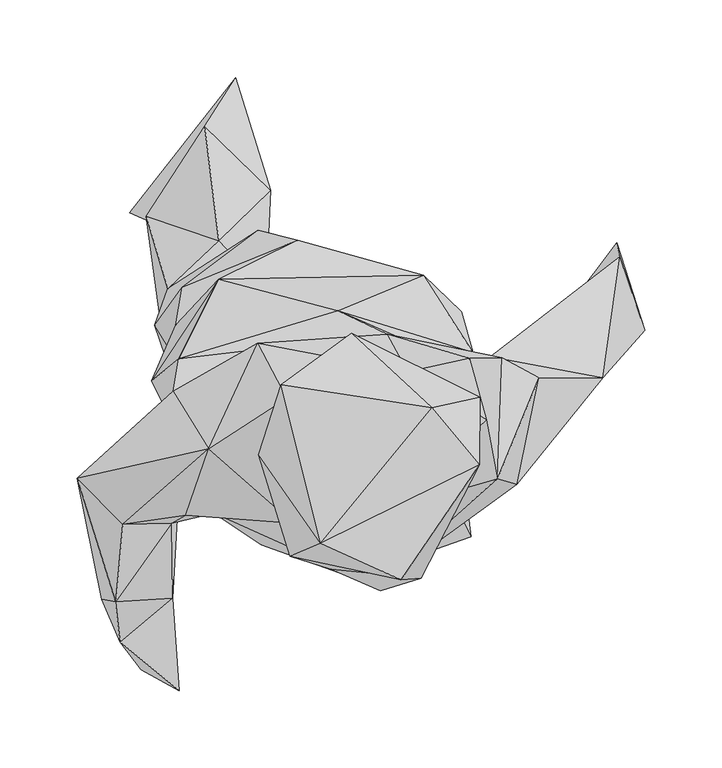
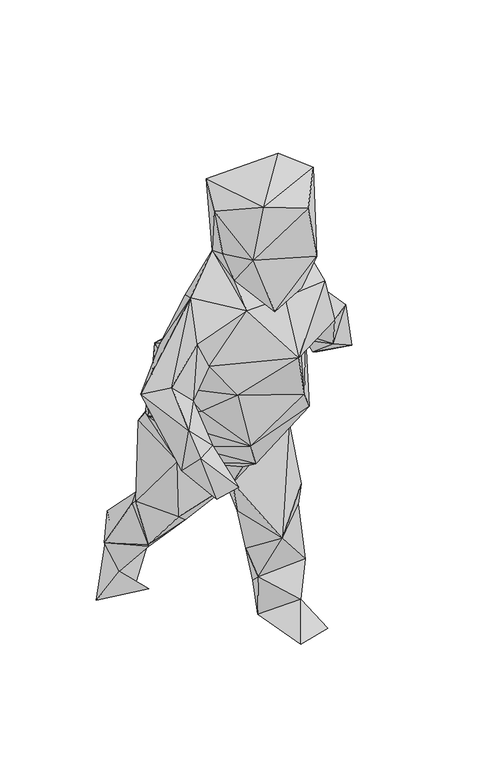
"""IFC4 building model written with IfcOpenShell, lengths in millimetres: geographic element geometry, Enscape AssetDefinition - Milan 001 Walking : Enscape AssetDefinition - Milan 001 Walking."""

from ifc_helpers import new_model, si_unit, origin, place, context, project, spatial, triangles, source, transform, mapped, element, save


def geographic_element_ef595390(model_context):
    return source(origin(), model_context, "Body", "Tessellation", [
        triangles([(-59.4208416, 26.888877, 363.3096554), (-88.989054, -45.4761668, 462.3999733), (-83.9371912, -88.3273757, 416.5611288), (-85.2461866, -24.6922019, 448.9078826), (-66.6462863, -112.2114102, 389.2129798), (-150.9280241, -101.9880971, 438.7650061), (-65.9803749, -82.9538846, 547.7252157), (-89.7299881, -130.8560934, 424.9156697), (-121.6893745, -131.5568682, 456.3472541), (-123.1483789, -207.822144, 392.1824933), (-126.1871196, -181.7295688, 421.2698167), (-109.6545441, -225.7908328, 335.8007604), (-135.0800089, -180.0180998, 361.4777178), (-84.9784976, -239.1310069, 353.3556118), (-89.2322986, -179.3298788, 383.5405063), (-80.9880253, -125.7966456, 506.5310005), (-62.3510225, -124.5568049, 465.1338181), (-11.0093855, -130.8595543, 537.7826177), (-32.0434429, -144.918816, 421.3570207), (-11.2531842, -142.2822491, 332.8091552), (-62.6861219, -77.501038, 310.788697), (115.5082747, -63.3603132, 406.0964333), (63.8845499, -148.2571024, 391.2358941), (80.8383524, -132.038325, 357.1092708), (109.2069878, -79.911683, 335.0529499), (17.7353569, 6.4896798, 443.2469636), (105.0608565, -20.2663138, 367.7343126), (49.8829563, -8.8112298, 455.293503), (91.1360342, -25.6137209, 411.9530525), (73.0415218, 29.4259655, 330.7632045), (97.4867457, 5.9517954, 310.6772575), (29.7148128, 17.3395428, 202.8034278), (77.1453638, 21.7903192, 236.0546504), (96.5315806, -76.8103189, 165.2691273), (95.4192756, -86.1713027, 203.2421001), (52.2327584, -112.5595812, 149.1980425), (88.989163, -66.3674561, 287.9472133), (5.1919484, -67.5933669, 224.9886834), (-69.1628478, -54.2174846, 276.6239945), (11.0907963, -82.3214105, 256.7560757), (15.4324224, -107.7400625, 275.2471527), (-83.1963026, 21.6848637, 299.4723092), (-100.7359842, -3.0582839, 194.2129819), (-65.1276698, -50.9590489, 186.8329818), (-102.7813989, -38.7067308, 349.5314266), (-87.1846039, -3.0705688, 328.3816275), (-8.350556, 51.9090999, 330.1495428), (-92.4090579, 20.5469971, 173.5325945), (-30.0420321, -6.5475944, 142.3660104), (-62.8913783, 29.0819458, 90.9607723), (-94.0805856, -22.7581448, 135.7179605), (-3.9807646, -7.7199213, 202.0542184), (-33.9232905, 58.4251266, 244.8827452), (-25.8217819, 84.5380176, 71.6341041), (-68.6574871, 125.66306, 89.917622), (-106.3051301, 67.5269511, 88.8863078), (-59.5685252, 51.7365132, 167.3095187), (-89.8348872, 57.7722731, 44.3517668), (-117.1359461, 69.9553866, 1.0578956), (-57.4726366, 74.451542, -0.2829694), (-53.937142, 45.4009988, 12.2643245), (-48.5066231, 157.2972301, 50.0767399), (25.4267728, -43.432051, 159.7457181), (32.3469604, -85.7913749, 79.7215601), (32.9925901, -52.1735414, 103.9853861), (90.4922781, -28.5883349, 19.5296469), (107.4782779, -75.3284916, 75.2912482), (63.7193619, -17.6706783, 22.5268386), (87.6550966, -29.7459428, 154.0653053), (85.3893192, -102.4730057, 36.6823335), (37.8183357, -74.5766071, 12.8028988), (103.8368396, -139.6306123, 7.5665054), (53.3210686, -157.2367142, 10.8191582), (102.8943553, -24.2784463, 555.6113259), (116.522021, -23.2772447, 439.0359198), (123.7331906, -23.9839489, 488.1821932), (50.0222056, -122.7168645, 532.1011694), (120.8605007, -102.2803667, 521.1769815), (147.7587862, -36.7582964, 465.8987423), (189.25351, -36.9798354, 419.7427297), (42.5362754, -171.6989492, 470.3495607), (133.5768575, -105.867357, 457.3635801), (-23.9658882, -92.7942178, 607.7730766), (-10.7295686, -99.1210846, 565.385802), (-33.4759568, -86.6985143, 673.520299), (71.4471651, -166.6790158, 615.3457249), (-13.3978979, -152.2168989, 630.359416), (6.5334607, -143.9002735, 700.9774166), (45.2441088, -174.6263505, 580.1269444), (13.1279619, -160.6065122, 545.6223644), (113.6936053, -64.182088, 551.3926881), (72.509414, -102.9353049, 553.2181944), (62.9888696, -33.1804965, 569.1706), (88.5937021, -85.1285611, 588.0956077), (-15.5387181, -50.2373088, 584.4058256), (101.8465723, -100.7112855, 611.1353714), (109.5695384, -49.5961097, 653.1803341), (109.1608061, -93.2175659, 696.3856911), (26.5002765, -8.2774852, 629.606991), (-34.1981828, -14.6883363, 500.2467184), (-18.9473094, -41.4045585, 691.9969328), (78.6461988, -56.4824581, 707.1171581), (58.420998, -167.6325005, 695.45646), (200.0923287, 41.2662675, 350.1455606), (147.8914907, -77.2160626, 398.1251902), (99.8924946, -74.000643, 429.4299654), (216.1093017, -6.1775997, 328.2681533), (198.0455423, 50.4186476, 290.0661246), (169.3341953, 12.2994071, 323.9635468)], [[14, 10, 12], [109, 22, 75], [109, 75, 104], [104, 108, 109], [107, 109, 108], [108, 104, 107], [109, 107, 105], [105, 106, 22], [109, 105, 22], [104, 80, 107], [104, 75, 80], [105, 107, 80], [103, 86, 98], [88, 103, 98], [88, 98, 102], [101, 88, 102], [88, 101, 85], [100, 7, 95], [101, 95, 85], [101, 102, 99], [99, 95, 101], [97, 102, 98], [102, 97, 99], [86, 97, 98], [86, 96, 97], [94, 97, 96], [99, 93, 95], [94, 93, 97], [100, 95, 93], [93, 99, 97], [86, 89, 92], [92, 94, 96], [92, 93, 94], [86, 92, 96], [93, 92, 91], [92, 77, 91], [89, 86, 90], [90, 92, 89], [90, 77, 92], [103, 88, 87], [87, 88, 85], [87, 86, 103], [86, 87, 90], [95, 83, 85], [85, 83, 87], [83, 84, 87], [84, 90, 87], [90, 84, 77], [95, 84, 83], [77, 84, 18], [18, 95, 7], [18, 84, 95], [77, 18, 81], [82, 105, 80], [82, 106, 105], [81, 106, 82], [75, 79, 80], [79, 82, 80], [79, 78, 82], [77, 78, 91], [78, 77, 81], [81, 82, 78], [93, 91, 74], [78, 74, 91], [78, 79, 76], [76, 79, 75], [74, 78, 76], [74, 28, 93], [28, 100, 93], [76, 28, 74], [28, 76, 75], [70, 73, 72], [70, 71, 73], [73, 71, 72], [72, 66, 70], [72, 71, 66], [34, 69, 32], [67, 70, 66], [34, 67, 69], [67, 68, 69], [66, 68, 67], [68, 66, 71], [68, 71, 64], [67, 64, 70], [71, 70, 64], [65, 69, 68], [68, 64, 65], [36, 64, 67], [36, 67, 34], [36, 65, 64], [69, 63, 32], [63, 65, 36], [69, 65, 63], [63, 38, 32], [38, 63, 36], [60, 59, 62], [61, 59, 60], [55, 62, 58], [59, 61, 58], [58, 61, 60], [58, 62, 59], [54, 62, 55], [60, 62, 54], [54, 58, 60], [57, 54, 55], [56, 57, 55], [55, 58, 56], [58, 50, 56], [50, 58, 54], [54, 49, 50], [57, 49, 54], [52, 38, 49], [32, 38, 52], [49, 57, 52], [52, 53, 32], [48, 57, 56], [52, 57, 48], [52, 48, 53], [51, 48, 56], [50, 51, 56], [49, 51, 50], [38, 44, 49], [44, 51, 49], [51, 44, 43], [48, 43, 53], [51, 43, 48], [42, 47, 53], [42, 53, 43], [46, 47, 42], [47, 46, 1], [45, 1, 46], [21, 45, 46], [43, 39, 42], [39, 21, 46], [44, 38, 39], [43, 44, 39], [46, 42, 39], [40, 39, 38], [39, 41, 21], [39, 40, 41], [40, 38, 37], [41, 40, 37], [36, 37, 38], [32, 35, 34], [35, 37, 36], [36, 34, 35], [33, 32, 53], [35, 33, 37], [35, 32, 33], [37, 33, 31], [47, 30, 53], [1, 30, 47], [30, 33, 53], [31, 33, 30], [26, 30, 1], [26, 27, 30], [30, 27, 31], [37, 31, 27], [75, 29, 28], [29, 26, 28], [26, 29, 27], [22, 29, 75], [25, 27, 29], [41, 37, 25], [37, 27, 25], [25, 29, 22], [25, 24, 41], [22, 24, 25], [22, 23, 24], [81, 23, 106], [23, 22, 106], [20, 41, 24], [20, 45, 21], [41, 20, 21], [23, 20, 24], [45, 20, 5], [5, 20, 19], [19, 23, 81], [19, 20, 23], [19, 3, 5], [81, 17, 19], [3, 19, 17], [81, 18, 17], [18, 7, 16], [18, 16, 17], [9, 16, 7], [9, 8, 16], [3, 17, 8], [16, 8, 17], [14, 12, 15], [15, 3, 8], [10, 14, 15], [12, 13, 15], [13, 12, 10], [13, 3, 15], [10, 11, 13], [10, 15, 11], [8, 9, 11], [8, 11, 15], [13, 6, 3], [9, 7, 6], [9, 6, 11], [11, 6, 13], [6, 7, 2], [28, 2, 100], [7, 100, 2], [3, 6, 2], [5, 4, 45], [4, 28, 26], [4, 5, 3], [2, 28, 4], [2, 4, 3], [1, 45, 4], [4, 26, 1]]),
    ])


if __name__ == "__main__":
    model = new_model("IFC4")
    model_context = context("Model", 3, world=origin())
    ifc_project = project(units=[si_unit("LENGTHUNIT", "METRE", prefix="MILLI")], contexts=[model_context])
    site = spatial("IfcSite", under=ifc_project)
    building = spatial("IfcBuilding", under=site)
    placement = place(None, origin())
    geographic_element_shape = geographic_element_ef595390(model_context)
    element("IfcGeographicElement", 1, ObjectType="Enscape AssetDefinition - Milan 001 Walking : Enscape AssetDefinition - Milan 001 Walking", at=placement, inside=building, context=model_context, shape_type="MappedRepresentation", body=[
        mapped(geographic_element_shape, transform((0.0, 0.0, 0.0), x_axis=(1.0, 0.0, 0.0), y_axis=(0.0, 1.0, 0.0), z_axis=(0.0, 0.0, 1.0))),
    ])
    save(model, "model.ifc")
